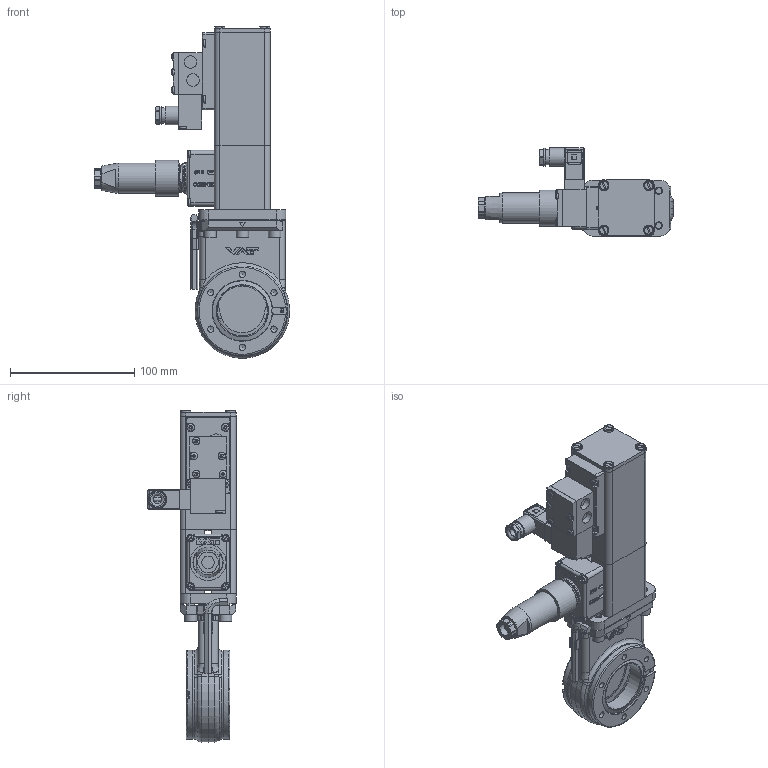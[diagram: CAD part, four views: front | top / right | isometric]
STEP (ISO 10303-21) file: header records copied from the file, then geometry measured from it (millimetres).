
FILE_DESCRIPTION(/* description */ (''),/* implementation_level */ '2;1');
FILE_NAME(/* name */ '1396158238_203.stp',/* time_stamp */ '2016-05-30T17:36:05+02:00',/* author */ (''),/* organization */ (''),/* preprocessor_version */ 'ST-DEVELOPER v15',/* originating_system */ 'SIEMENS PLM Software NX 9.0',/* authorisation */ '');
FILE_SCHEMA (('AP203_CONFIGURATION_CONTROLLED_3D_DESIGN_OF_MECHANICAL_PARTS_AND_ASSEMBLIES_MIM_LF { 1 0 10303 403 2 1 2}'));
Products named in the file (47): 467882; 437235; 63152-01.4_25678ID; 63150-01_25731ID; 63150-01_25732ID; N-7557-016_1.1; N-7557-018.1; N-7557-016_2.1; N-6024-524.1; 69672-01; 69252-01_25690ID; 69252-01_25691ID; 522373; n-6024-526; N-5018-005.1; 94294-01.3; 69846-01; n-8504-002; 723790; 69095-01.4_25460ID; 559449; 66490-01.2; 66238-02.1; 252066.1; 252080.1; 66481-01.2; 70613-01.2; 92410-01; 69852-01; 63172-01; 228772.1; 69968-01.1; 73280-01_1.1; 437438_NX-ARRAGMNTArrangement 1; 522431_NX-ARRAGMNTmit_Stecker1; 522365_NX-ARRAGMNTArrangement 1; 777483_NX-ARRAGMNTMassbild; 777482_NX-ARRAGMNTMassbild; 777481_NX-ARRAGMNTMassbild; 755578_NX-ARRAGMNTMassbild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
Assembly tree (71 placements, depth 5):
  327429.5
    777485_NX-ARRAGMNTMassbild
      63172-01
      69852-01
      63170-r1
        318865
          63150-01_25732ID
          63150-01_25731ID
      92410-01  x2
    777461_NX-ARRAGMNTMassbild
      777439_NX-ARRAGMNTMassbild
        777465_NX-ARRAGMNTMassbild
          63152-01.4_25678ID
      70613-01.2
      66481-01.2
      252080.1
      252066.1  x4
      66238-02.1  x4
      66490-01.2
    755578_NX-ARRAGMNTMassbild
      559449
      69095-01.4_25460ID
    777481_NX-ARRAGMNTMassbild
      723790  x4
      777482_NX-ARRAGMNTMassbild
        69252-01_25691ID
        69252-01_25690ID
      n-8504-002
      777483_NX-ARRAGMNTMassbild
        69672-01
      69846-01
    522365_NX-ARRAGMNTArrangement 1
      94294-01.3
      N-5018-005.1  x2
      n-6024-526  x4
      522373  x2
      522431_NX-ARRAGMNTmit_Stecker1
        N-6024-524.1  x6
        N-7557-016_2.1
        N-7557-018.1
        N-7557-016_1.1
        437438_NX-ARRAGMNTArrangement 1
          437235
          467882
    73280-01_1.1
    69968-01.1
    228772.1  x6
Bounding box: 157.01 x 70.85 x 267.04 mm (x, y, z)
Volume: 355866.1 mm3; surface area: 202415 mm2
Topology: 70 solids, 70 shells, 2402 faces, 6060 edges, 3954 vertices
Faces by surface type: plane 1499, cylinder 528, extrusion 112, cone 110, torus 72, bspline 64, sphere 17
Full cylindrical faces by diameter (mm): 1.66 x7, 1.95 x4, 2 x4, 2.25 x4, 2.5 x10, 2.693 x4, 3 x27, 3.15 x1, 3.2 x2, 3.3 x8, 3.4 x10, 3.485 x4, 3.5 x3, 4 x18, 4.15 x4, 4.2 x2, 4.22 x1, 4.65 x4, 4.96 x6, 5 x19, 5.4 x4, 5.5 x1, 5.6 x8, 6 x34, 6.2 x6, 7 x1, 8.1 x4, 8.8 x2, 10 x11, 10.008 x1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
Entity records: 76043 total; most frequent: CARTESIAN_POINT 20378, ORIENTED_EDGE 9338, DIRECTION 8511, EDGE_CURVE 4669, VERTEX_POINT 3192, AXIS2_PLACEMENT_3D 2893, VECTOR 2725, LINE 2615
